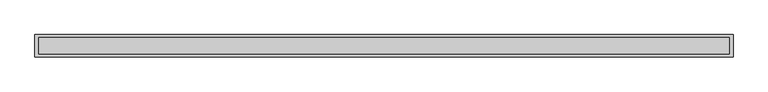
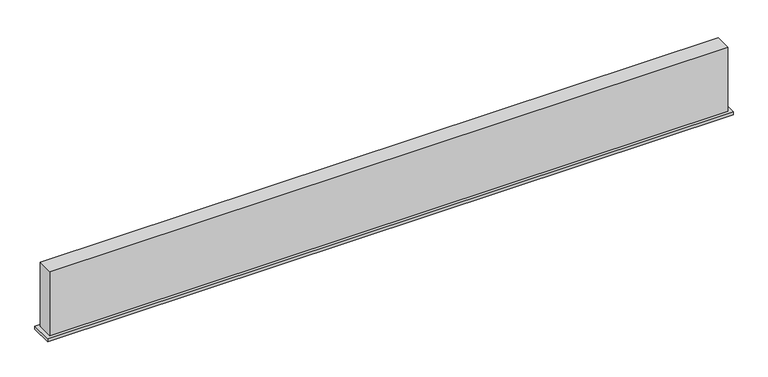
"""IFC4 building model written with IfcOpenShell, lengths in millimetres: air terminal geometry, 033_線状吹出口_BL : BL-S."""

from ifc_helpers import new_model, si_unit, frame, origin, origin_with_axes, place, context, project, spatial, polyline, outline, extrude, source, transform, mapped, element, save


def air_terminal_c600b682(model_context):
    return source(origin(), model_context, "Body", "SweptSolid", [
        extrude(outline(polyline([(1011.0, -32.5), (-1011.0, -32.5), (-1011.0, 32.5), (1011.0, 32.5), (1011.0, -32.5)]), holes=[polyline([(1000.0, -24.0), (1000.0, 24.0), (-1000.0, 24.0), (-1000.0, -24.0), (1000.0, -24.0)])]), frame((0.0, 0.0, -10.0), z_axis=(0.0, 0.0, 1.0), x_axis=(1.0, 0.0, 0.0)), (0.0, 0.0, 1.0), 10.0),
        extrude(outline(polyline([(1000.0, 24.0), (1000.0, -24.0), (-1000.0, -24.0), (-1000.0, 24.0), (1000.0, 24.0)])), origin_with_axes(), (0.0, 0.0, 1.0), 200.0),
    ])


if __name__ == "__main__":
    model = new_model("IFC4")
    model_context = context("Model", 3, world=origin())
    ifc_project = project(units=[si_unit("LENGTHUNIT", "METRE", prefix="MILLI")], contexts=[model_context])
    site = spatial("IfcSite", under=ifc_project)
    building = spatial("IfcBuilding", under=site)
    placement = place(None, origin())
    air_terminal_shape = air_terminal_c600b682(model_context)
    element("IfcAirTerminal", 1, ObjectType="033_線状吹出口_BL : BL-S", at=placement, inside=building, context=model_context, shape_type="MappedRepresentation", body=[
        mapped(air_terminal_shape, transform((0.0, 0.0, 0.0), x_axis=(1.0, 0.0, 0.0), y_axis=(0.0, 1.0, 0.0), z_axis=(0.0, 0.0, 1.0))),
    ])
    save(model, "model.ifc")
